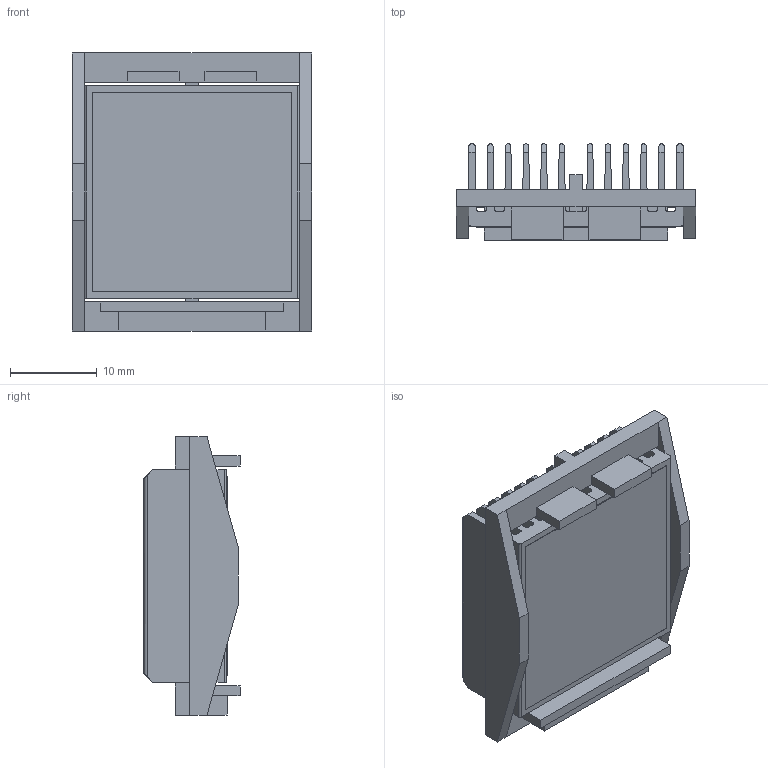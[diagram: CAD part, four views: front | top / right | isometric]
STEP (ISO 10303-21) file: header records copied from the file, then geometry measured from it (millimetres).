
FILE_DESCRIPTION (( 'STEP AP214' ), '1' );
FILE_NAME ('INL25001-10-1.7BU.STEP', '2023-02-21T19:28:54', ( '' ), ( '' ), 'SwSTEP 2.0', 'SolidWorks 2020', '' );
FILE_SCHEMA (( 'AUTOMOTIVE_DESIGN' ));
Length unit declared in the file: millimetre
Products named in the file (1): INL25001-10-1.7BU
Bounding box: 27.7 x 11.1 x 32.1 mm (x, y, z)
Volume: 3806.7 mm3; surface area: 8689 mm2
Topology: 3 solids, 3 shells, 152 faces, 440 edges, 292 vertices
Faces by surface type: plane 116, cylinder 36
Entity records: 6668 total; most frequent: CARTESIAN_POINT 957, ORIENTED_EDGE 880, DIRECTION 770, EDGE_CURVE 440, LINE 368, VECTOR 368, VERTEX_POINT 292, AXIS2_PLACEMENT_3D 201
